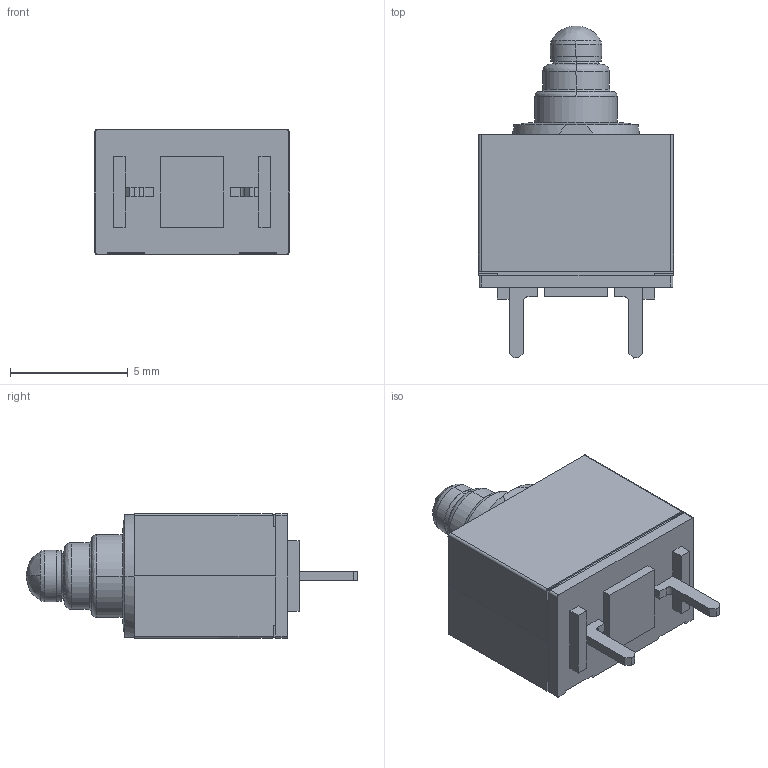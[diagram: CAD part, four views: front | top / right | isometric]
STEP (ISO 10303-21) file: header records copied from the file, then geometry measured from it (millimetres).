
FILE_DESCRIPTION (( 'STEP AP214' ), '1' );
FILE_NAME ('SPVQ830502.STEP', '2018-06-20T07:10:52', ( 'user' ), ( '' ), 'SwSTEP 2.0', 'SolidWorks 2017', '' );
FILE_SCHEMA (( 'AUTOMOTIVE_DESIGN' ));
Length unit declared in the file: millimetre
Products named in the file (1): SPVQ830502
Bounding box: 8.3 x 14.1 x 5.3 mm (x, y, z)
Volume: 325 mm3; surface area: 333.2 mm2
Topology: 1 solids, 1 shells, 217 faces, 575 edges, 378 vertices
Faces by surface type: plane 156, cylinder 26, bspline 22, cone 13
Entity records: 8266 total; most frequent: CARTESIAN_POINT 2581, ORIENTED_EDGE 1150, DIRECTION 895, EDGE_CURVE 575, LINE 429, VECTOR 429, VERTEX_POINT 378, EDGE_LOOP 235
